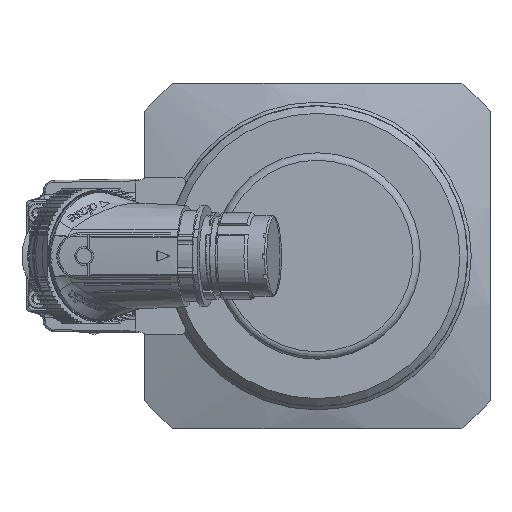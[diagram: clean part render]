
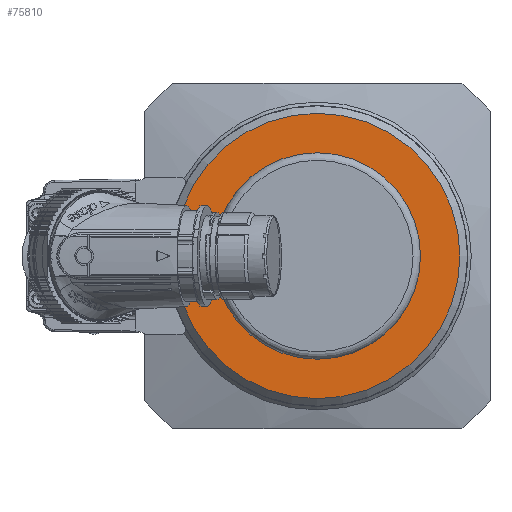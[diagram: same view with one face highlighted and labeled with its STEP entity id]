
A CAD part, left-side view. The second image highlights one B-rep face of the part: STEP entity #75810.
In plain terms, the highlighted planar face has unit normal (-1, 0, 0).
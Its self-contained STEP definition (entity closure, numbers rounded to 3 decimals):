
#3912 = FACE_BOUND ( 'NONE', #20665, .T. ) ;
#3986 = FACE_OUTER_BOUND ( 'NONE', #55615, .T. ) ;
#20665 = EDGE_LOOP ( 'NONE', ( #27408 ) ) ;
#22409 = AXIS2_PLACEMENT_3D ( 'NONE', #37228, #82378, #43744 ) ;
#22941 = CARTESIAN_POINT ( 'NONE',  ( -445.9, 0., 0. ) ) ;
#24284 = ORIENTED_EDGE ( 'NONE', *, *, #37395, .T. ) ;
#27408 = ORIENTED_EDGE ( 'NONE', *, *, #36295, .T. ) ;
#29421 = DIRECTION ( 'NONE',  ( 0., 0., 1. ) ) ;
#36295 = EDGE_CURVE ( 'NONE', #54547, #54547, #57984, .T. ) ;
#36410 = DIRECTION ( 'NONE',  ( -1., 0., 0. ) ) ;
#37228 = CARTESIAN_POINT ( 'NONE',  ( -445.9, 0., 0. ) ) ;
#37395 = EDGE_CURVE ( 'NONE', #53905, #53905, #45839, .T. ) ;
#43744 = DIRECTION ( 'NONE',  ( 0., 0., -1. ) ) ;
#45839 = CIRCLE ( 'NONE', #72127, 37.999 ) ;
#53905 = VERTEX_POINT ( 'NONE', #60289 ) ;
#54547 = VERTEX_POINT ( 'NONE', #73005 ) ;
#55484 = CARTESIAN_POINT ( 'NONE',  ( -445.9, 27.5, 0. ) ) ;
#55615 = EDGE_LOOP ( 'NONE', ( #24284 ) ) ;
#57984 = CIRCLE ( 'NONE', #22409, 27.5 ) ;
#60289 = CARTESIAN_POINT ( 'NONE',  ( -445.9, 0., 37.999 ) ) ;
#68053 = DIRECTION ( 'NONE',  ( -1., 0., 0. ) ) ;
#72127 = AXIS2_PLACEMENT_3D ( 'NONE', #22941, #68053, #29421 ) ;
#73005 = CARTESIAN_POINT ( 'NONE',  ( -445.9, 0., -27.5 ) ) ;
#75009 = PLANE ( 'NONE',  #81773 ) ;
#75810 = ADVANCED_FACE ( 'NONE', ( #3986, #3912 ), #75009, .T. ) ;
#81549 = DIRECTION ( 'NONE',  ( 0., 0., 1. ) ) ;
#81773 = AXIS2_PLACEMENT_3D ( 'NONE', #55484, #36410, #81549 ) ;
#82378 = DIRECTION ( 'NONE',  ( 1., 0., 0. ) ) ;
